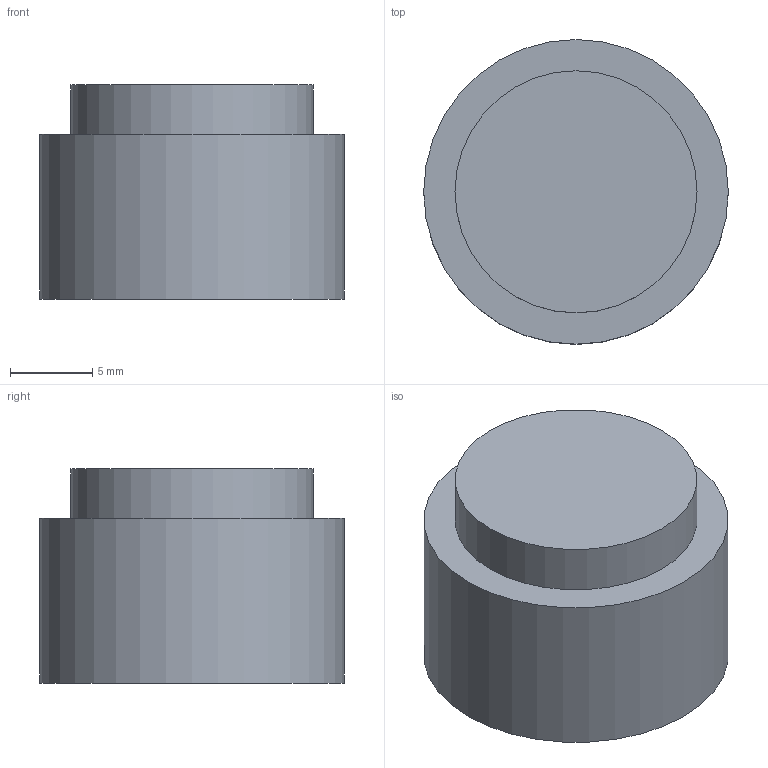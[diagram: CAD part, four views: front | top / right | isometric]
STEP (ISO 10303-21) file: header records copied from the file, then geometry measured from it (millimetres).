
FILE_DESCRIPTION(('STEP AP203'), '1');
FILE_NAME('ﾑﾒﾀﾐﾒ-ﾑﾒﾎﾏ', '', ('UNSPECIFIED'), ('UNSPECIFIED'), 'C3D Converter', 'C3D Toolkit', '');
FILE_SCHEMA(('CONFIG_CONTROL_DESIGN'));
Length unit declared in the file: millimetre
Bounding box: 18.5 x 18.5 x 13 mm (x, y, z)
Volume: 3154.8 mm3; surface area: 1285.6 mm2
Topology: 1 solids, 1 shells, 7 faces, 9 edges, 6 vertices
Faces by surface type: plane 4, cylinder 3
Full cylindrical faces by diameter (mm): 6 x1, 14.7 x1, 18.5 x1
Entity records: 174 total; most frequent: DIRECTION 28, CARTESIAN_POINT 20, AXIS2_PLACEMENT_3D 14, EDGE_LOOP 12, ORIENTED_EDGE 12, ADVANCED_FACE 7, FACE_BOUND 6, FACE_OUTER_BOUND 6
